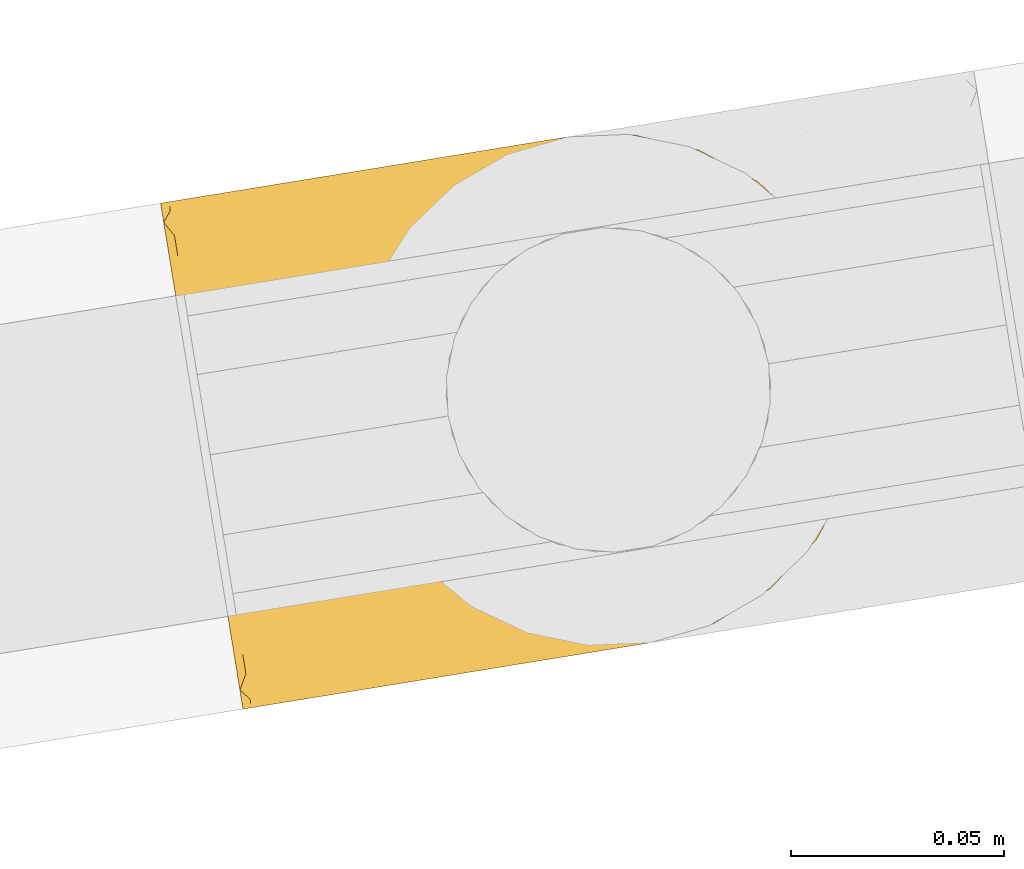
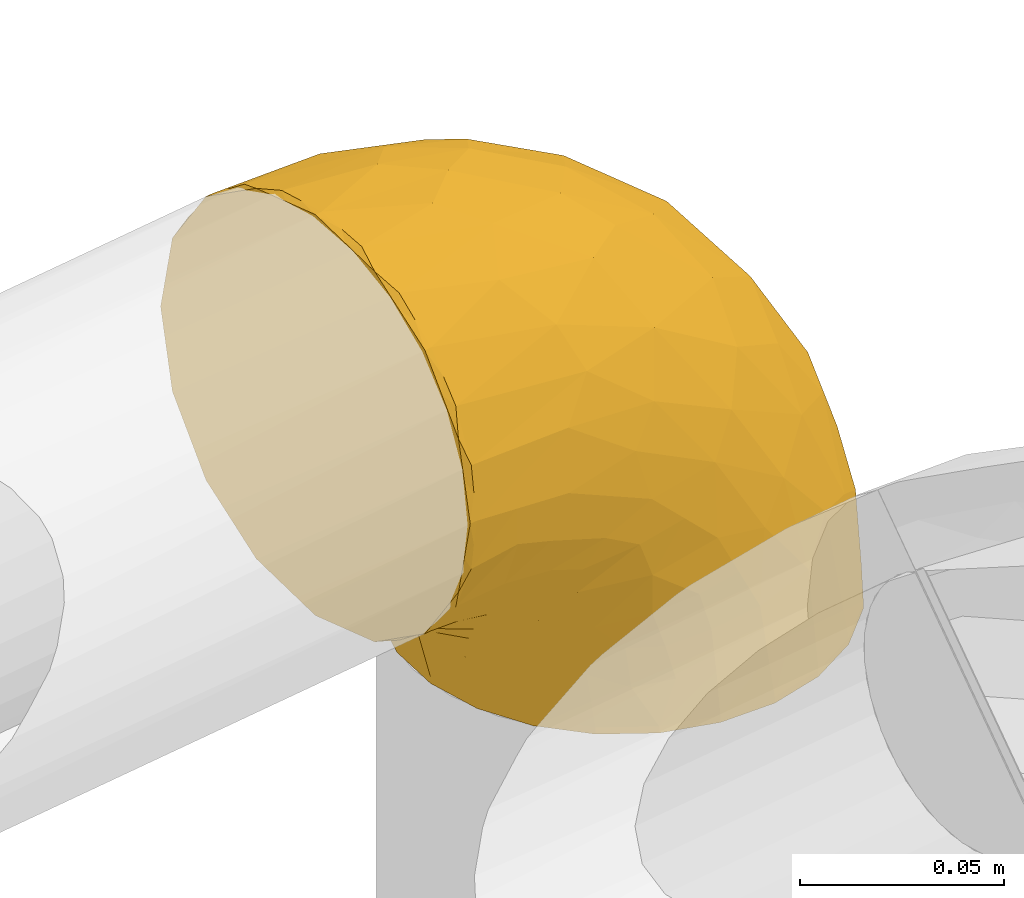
# One storey, part 15 of 56: 1 covering.
"""IFC2X3 building model written with IfcOpenShell, lengths in millimetres."""

from ifc_helpers import new_model, entity, si_unit, converted_unit, derived_unit, direction, frame, origin, origin_with_axes, place, context, subcontext, project, spatial, faceted_brep, material, type_object, element, save


model = new_model("IFC2X3")

# Units and contexts
model_context = context("Model", 3, precision=0.01, world=origin(), true_north=direction((6.12323399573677e-17, 1.0)))
plan_context = context("Plan", 3, precision=1e-05, world=origin_with_axes())
body_context = subcontext(model_context, "Body", "Model", "MODEL_VIEW")
ifc_project = project(units=[converted_unit("PLANEANGLEUNIT", "DEGREE", entity("IfcPositiveLengthMeasure", 0.0174532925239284), si_unit("PLANEANGLEUNIT", "RADIAN"), dimensions=[0, 0, 0, 0, 0, 0, 0]), si_unit("AREAUNIT", "SQUARE_METRE"), si_unit("LENGTHUNIT", "METRE", prefix="MILLI"), si_unit("MASSUNIT", "GRAM", prefix="KILO"), si_unit("POWERUNIT", "WATT"), si_unit("PRESSUREUNIT", "PASCAL", prefix="KILO"), si_unit("FORCEUNIT", "NEWTON", prefix="KILO"), si_unit("ELECTRICVOLTAGEUNIT", "VOLT"), si_unit("ELECTRICCURRENTUNIT", "AMPERE"), si_unit("THERMODYNAMICTEMPERATUREUNIT", "DEGREE_CELSIUS"), si_unit("TIMEUNIT", "SECOND"), si_unit("VOLUMEUNIT", "CUBIC_METRE"), derived_unit("LINEARVELOCITYUNIT", [(si_unit("LENGTHUNIT", "METRE"), 1), (si_unit("TIMEUNIT", "SECOND"), -1)]), derived_unit("VOLUMETRICFLOWRATEUNIT", [(si_unit("VOLUMEUNIT", "CUBIC_METRE"), 1), (si_unit("TIMEUNIT", "SECOND"), -1)]), derived_unit("THERMALTRANSMITTANCEUNIT", [(si_unit("POWERUNIT", "WATT"), 1), (si_unit("THERMODYNAMICTEMPERATUREUNIT", "KELVIN"), -1), (si_unit("AREAUNIT", "SQUARE_METRE"), -1)]), derived_unit("SOUNDPRESSUREUNIT", [(si_unit("PRESSUREUNIT", "PASCAL"), 1)])], contexts=[model_context, plan_context])

# Site, building, storey
site_placement = place(None, frame((-3.09682673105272e-06, 1.93776733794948e-05, 0.0), z_axis=(0.0, 0.0, 1.0), x_axis=(-0.160806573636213, 0.986985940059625, 0.0)))
site = spatial("IfcSite", under=ifc_project, at=site_placement, Name="Default", CompositionType="ELEMENT")
building_placement = place(site_placement, frame((0.0, 0.0, 0.0), z_axis=(0.0, 0.0, 1.0), x_axis=(1.0, -2.77555756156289e-17, 0.0)))
building = spatial("IfcBuilding", under=site, at=building_placement, Name="Bygning (endres i Project Information)", CompositionType="ELEMENT")
storey_placement = place(building_placement, frame((0.0, 0.0, 51360.0000000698), z_axis=(0.0, 0.0, 1.0), x_axis=(1.0, -2.77555756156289e-17, 0.0)))
storey = spatial("IfcBuildingStorey", under=building, at=storey_placement, Name="H01-Nivå D+0,36", CompositionType="ELEMENT", Elevation=51360.0000000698)

# Covering
ifc_material = material(Name="3700.001 Tur")
covering_type = type_object("IfcCoveringType", Name="Pipe Insulation:GLAVA avløpsisol. slange økende 19mm (15,5-25,0)", PredefinedType="INSULATION")
covering_placement = place(storey_placement, frame((1011826.7223707, -395690.961006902, 3503.50000000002), z_axis=(0.0, 0.0, 1.0), x_axis=(1.0, -2.77555756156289e-17, 0.0)))
element("IfcCovering", 1, at=covering_placement, inside=storey, type_object=covering_type, material=ifc_material, Name="Pipe Insulation:GLAVA avløpsisol. slange økende 19mm (15,5-25,0)", ObjectType="Pipe Insulation:GLAVA avløpsisol. slange økende 19mm (15,5-25,0)", PredefinedType="INSULATION", context=body_context, shape_type="Brep", body=[
    faceted_brep([(12.6749081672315, 158.145272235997, 129.22095116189), (19.1835100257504, 158.145272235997, 138.961762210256), (28.9243210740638, 158.145272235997, 145.470364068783), (38.6651321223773, 158.145272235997, 151.978965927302), (50.15520217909, 158.145272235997, 154.264482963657), (61.6452722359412, 158.145272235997, 156.550000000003), (73.1353422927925, 158.145272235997, 154.264482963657), (84.6254123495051, 158.145272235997, 151.978965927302), (94.3662233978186, 158.145272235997, 145.470364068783), (104.107034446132, 158.145272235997, 138.961762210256), (110.615636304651, 158.145272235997, 129.22095116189), (117.124238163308, 158.145272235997, 119.480140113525), (119.409755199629, 158.145272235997, 107.990070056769), (121.695272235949, 158.145272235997, 96.500000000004), (119.409755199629, 158.145272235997, 85.0099299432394), (117.124238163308, 158.145272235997, 73.5198598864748), (110.615636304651, 158.145272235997, 63.779048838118), (104.107034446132, 158.145272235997, 54.0382377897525), (94.3662233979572, 158.145272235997, 47.529635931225), (84.6254123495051, 158.145272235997, 41.0210340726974), (73.1353422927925, 158.145272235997, 38.7355170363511), (61.6452722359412, 158.145272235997, 36.4500000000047), (50.15520217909, 158.145272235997, 38.7355170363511), (38.6651321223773, 158.145272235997, 41.0210340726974), (28.9243210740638, 158.145272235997, 47.529635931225), (19.1835100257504, 158.145272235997, 54.0382377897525), (12.6749081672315, 158.145272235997, 63.779048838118), (6.16630630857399, 158.145272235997, 73.5198598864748), (3.88078927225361, 158.145272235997, 85.0099299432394), (1.59527223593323, 158.145272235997, 96.500000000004), (3.88078927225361, 158.145272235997, 107.990070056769), (6.16630630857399, 158.145272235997, 119.480140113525), (84.4288140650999, 6.64093655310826, 0.0), (77.1873558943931, 3.64142636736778, 0.0), (70.0046048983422, 2.69579925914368, 0.0), (61.6452722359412, 1.59527223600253, 0.0), (53.8742304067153, 2.61834930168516, 0.0), (46.1031885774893, 3.64142636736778, 0.0), (38.8617304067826, 6.64093655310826, 0.0), (31.6202722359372, 9.64044673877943, 0.0), (25.4018911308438, 14.4119783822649, 0.0), (19.1835100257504, 19.1835100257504, 0.0), (14.4119783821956, 25.4018911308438, 0.0), (9.64044673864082, 31.6202722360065, 0.0), (6.64093655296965, 38.8617304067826, 0.0), (3.64142636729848, 46.103188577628, 0.0), (2.69579925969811, 53.2859395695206, 0.0), (1.59527223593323, 61.6452722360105, 0.0), (2.61834930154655, 69.4163140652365, 0.0), (3.64142636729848, 77.1873558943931, 0.0), (6.64093655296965, 84.4288140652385, 0.0), (9.64044673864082, 91.6702722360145, 0.0), (14.4119783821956, 97.8886533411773, 0.0), (19.1835100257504, 104.107034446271, 0.0), (25.4018911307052, 108.878566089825, 0.0), (31.6202722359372, 113.650097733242, 0.0), (38.8617304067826, 116.649607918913, 0.0), (46.1031885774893, 119.649118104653, 0.0), (53.2859395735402, 120.594745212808, 0.0), (61.6452722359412, 121.695272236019, 0.0), (69.4163140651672, 120.672195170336, 0.0), (77.1873558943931, 119.649118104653, 0.0), (84.4288140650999, 116.649607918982, 0.0), (91.6702722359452, 113.650097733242, 0.0), (97.8886533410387, 108.878566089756, 0.0), (104.107034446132, 104.107034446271, 0.0), (108.878566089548, 97.8886533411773, 0.0), (113.650097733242, 91.6702722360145, 0.0), (116.649607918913, 84.4288140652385, 0.0), (119.649118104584, 77.1873558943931, 0.0), (120.594745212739, 70.0046048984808, 0.0), (121.695272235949, 61.6452722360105, 0.0), (120.672195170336, 53.8742304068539, 0.0), (119.649118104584, 46.103188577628, 0.0), (116.649607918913, 38.8617304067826, 0.0), (113.650097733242, 31.6202722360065, 0.0), (108.878566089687, 25.4018911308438, 0.0), (104.107034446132, 19.1835100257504, 0.0), (97.8886533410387, 14.4119783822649, 0.0), (91.6702722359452, 9.64044673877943, 0.0), (46.1031885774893, 3.64142636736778, 2.0), (61.6452722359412, 1.59527223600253, 2.0), (53.2859395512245, 2.69579926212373, 2.0), (31.6202722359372, 9.64044673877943, 2.0), (38.861730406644, 6.64093655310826, 2.0), (25.4018911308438, 14.4119783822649, 2.0), (19.1835100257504, 19.1835100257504, 2.0), (9.64044673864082, 31.6202722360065, 2.0), (14.4119783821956, 25.4018911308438, 2.0), (3.64142636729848, 46.103188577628, 2.0), (6.64093655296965, 38.8617304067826, 2.0), (2.61834930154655, 53.8742304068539, 2.0), (1.59527223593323, 61.6452722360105, 2.0), (2.69579925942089, 70.0046049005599, 2.0), (2.99407838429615, 72.270259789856, 2.0), (3.64142636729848, 77.1873558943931, 2.0), (9.64044673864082, 91.6702722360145, 2.0), (6.64093655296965, 84.4288140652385, 2.0), (14.4119783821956, 97.8886533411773, 2.0), (19.1835100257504, 104.107034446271, 2.0), (31.6202722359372, 113.650097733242, 2.0), (25.4018911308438, 108.878566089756, 2.0), (46.1031885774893, 119.649118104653, 2.0), (38.8617304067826, 116.649607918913, 2.0), (53.8742304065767, 120.672195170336, 2.0), (61.6452722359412, 121.695272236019, 2.0), (77.1873558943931, 119.649118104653, 2.0), (70.0046048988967, 120.594745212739, 2.0), (91.6702722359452, 113.650097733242, 2.0), (84.4288140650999, 116.649607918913, 2.0), (97.8886533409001, 108.878566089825, 2.0), (104.107034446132, 104.107034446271, 2.0), (113.650097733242, 91.6702722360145, 2.0), (108.878566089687, 97.8886533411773, 2.0), (119.649118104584, 77.1873558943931, 2.0), (116.649607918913, 84.4288140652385, 2.0), (120.296466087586, 72.2702597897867, 2.0), (120.672195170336, 69.4163140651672, 2.0), (121.695272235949, 61.6452722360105, 2.0), (119.649118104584, 46.103188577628, 2.0), (120.594745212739, 53.2859395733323, 2.0), (113.650097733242, 31.6202722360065, 2.0), (116.649607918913, 38.8617304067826, 2.0), (108.878566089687, 25.4018911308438, 2.0), (104.107034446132, 19.1835100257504, 2.0), (91.6702722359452, 9.64044673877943, 2.0), (97.8886533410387, 14.4119783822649, 2.0), (77.1873558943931, 3.64142636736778, 2.0), (84.4288140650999, 6.64093655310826, 2.0), (69.4163140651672, 2.61834930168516, 2.0), (61.6452722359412, 116.144788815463, 151.283836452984), (50.874360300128, 129.73909062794, 153.288940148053), (48.3123405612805, 91.3275798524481, 140.64817611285), (61.6452722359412, 6.86143578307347, 42.0004834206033), (50.8743603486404, 4.85633217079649, 28.4061821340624), (40.1140278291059, 19.7108907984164, 65.6641624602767), (29.0681267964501, 24.0008338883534, 61.5566816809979), (40.5629880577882, 10.0256837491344, 38.9846814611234), (26.8652987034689, 15.4130578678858, 29.8044788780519), (6.2538791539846, 54.9607082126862, 62.1059187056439), (9.32891480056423, 39.2407354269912, 43.2804897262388), (15.7793795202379, 41.467532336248, 69.8762938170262), (30.9943885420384, 57.2846017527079, 109.624365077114), (43.033171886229, 35.5526806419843, 93.8575830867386), (46.1252897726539, 63.6269251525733, 123.241838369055), (2.60271791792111, 63.9578923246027, 53.2047729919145), (3.35496170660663, 79.119706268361, 79.0255650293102), (1.59527223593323, 79.6931662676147, 57.5457063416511), (16.4717971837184, 27.4065744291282, 39.4121865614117), (25.2721583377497, 41.2870133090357, 85.9725505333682), (61.6452722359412, 46.8619192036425, 111.283353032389), (61.6452722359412, 78.8702722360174, 135.844226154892), (61.6452722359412, 22.3010460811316, 79.2750000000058), (4.10209138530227, 48.8965381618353, 33.1085428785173), (6.25387908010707, 96.0393519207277, 103.184562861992), (8.17011244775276, 70.00516872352, 88.1401014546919), (1.59527223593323, 72.9817988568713, 44.373906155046), (1.59527223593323, 66.270431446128, 31.202105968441), (51.0085878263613, 12.8520331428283, 57.3185911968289), (16.4717967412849, 118.733084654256, 130.73869698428), (15.7793792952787, 88.2689753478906, 116.677737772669), (29.0681253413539, 96.588587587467, 134.144435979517), (40.5629880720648, 119.160590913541, 148.119588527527), (46.1031885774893, 156.145272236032, 154.503845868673), (38.8617304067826, 156.145272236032, 151.504335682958), (31.6202722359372, 156.145272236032, 148.50482549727), (26.8652981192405, 128.340792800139, 142.732213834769), (25.4018911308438, 156.145272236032, 143.733293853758), (19.1835100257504, 156.145272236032, 138.961762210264), (61.6452722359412, 156.145272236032, 156.550000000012), (53.8742304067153, 156.145272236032, 155.526922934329), (9.32891462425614, 114.864781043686, 118.904535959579), (9.64044673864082, 156.145272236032, 126.525000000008), (6.64093655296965, 156.145272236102, 119.283541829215), (3.64142636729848, 156.145272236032, 112.042083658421), (14.4119783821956, 156.145272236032, 132.743381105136), (1.59527223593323, 100.599565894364, 78.4521059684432), (1.59527223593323, 90.1463660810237, 67.9989061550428), (2.6027179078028, 104.940498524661, 94.1873794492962), (4.1020913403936, 125.036728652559, 109.248733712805), (1.59527223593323, 126.943166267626, 91.8748407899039), (1.59527223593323, 156.145272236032, 96.5000000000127), (1.59527223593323, 143.348656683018, 94.4732152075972), (1.59527223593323, 113.771366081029, 85.1634733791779), (38.4156117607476, 82.0488500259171, 132.277479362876), (2.61834930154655, 156.145272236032, 104.271041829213), (17.5329938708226, 60.5130095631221, 97.6322587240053), (1.59527223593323, 63.6720568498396, 14.7966144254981), (30.453594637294, 131.757116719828, 37.6410747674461), (45.3850170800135, 138.323971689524, 34.0749834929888), (39.6602346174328, 127.650203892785, 28.0667583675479), (3.64833911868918, 78.4697149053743, 16.0282072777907), (3.2176443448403, 80.3495928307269, 29.5164396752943), (35.7453885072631, 116.753076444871, 10.6116860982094), (19.0905134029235, 106.885273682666, 19.0628082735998), (32.0600621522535, 118.78836893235, 21.7229416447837), (7.1678522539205, 91.7197062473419, 27.3599081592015), (6.53844542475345, 96.3841352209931, 39.666857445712), (11.6121890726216, 100.747367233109, 28.2283372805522), (2.87864533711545, 84.4531298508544, 42.1136087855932), (4.10903521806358, 98.2893169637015, 53.275038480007), (19.6892528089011, 147.039813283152, 52.7277267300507), (18.442420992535, 137.096336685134, 51.2360169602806), (12.6384382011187, 139.650076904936, 59.4763453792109), (2.61834930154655, 156.145272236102, 88.7289581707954), (2.99407837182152, 156.145272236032, 85.8750125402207), (3.64142636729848, 156.145272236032, 80.9579163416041), (7.16352338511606, 88.3689042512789, 16.1927958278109), (12.7756283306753, 97.9090140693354, 14.6934830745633), (46.8445885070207, 122.849817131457, 16.4668027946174), (28.5046498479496, 122.976806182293, 31.5509659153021), (18.6122281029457, 122.670864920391, 42.5961267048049), (34.8214494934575, 144.716541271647, 41.1395158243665), (31.6202722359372, 156.145272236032, 44.4951745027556), (38.8617304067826, 156.145272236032, 41.4956643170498), (46.1031885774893, 156.145272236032, 38.4961541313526), (2.81174882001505, 103.39185061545, 65.3961824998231), (6.64320962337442, 128.337375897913, 66.6759720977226), (2.9890941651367, 114.068112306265, 71.9580007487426), (3.24649436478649, 131.067079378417, 78.5096110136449), (11.1155242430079, 128.373817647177, 57.4926777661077), (2.96958213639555, 141.93880334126, 82.4821351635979), (9.64044673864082, 156.145272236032, 66.4750000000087), (8.05093078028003, 142.011205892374, 67.9157141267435), (19.1835100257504, 156.145272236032, 54.0382377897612), (13.3023469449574, 109.171554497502, 37.4968626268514), (21.705384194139, 114.200477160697, 28.5809695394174), (61.6452722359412, 147.532772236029, 34.1422875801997), (44.9928957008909, 146.794078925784, 37.5973450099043), (9.64933126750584, 117.529783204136, 53.6128492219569), (6.18578600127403, 118.7878055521, 62.9326956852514), (61.6452722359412, 156.145272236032, 36.4500000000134), (61.6452722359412, 132.61548465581, 25.5297875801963), (61.6452722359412, 138.920272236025, 31.8345751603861), (50.8046760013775, 128.322043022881, 23.9458716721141), (61.6452722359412, 126.310697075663, 19.2250000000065), (14.4119783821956, 156.145272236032, 60.256618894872), (25.4018911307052, 156.145272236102, 49.2667061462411), (6.64093655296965, 156.145272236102, 73.7164581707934), (53.8742304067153, 156.145272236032, 37.4730770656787), (104.200031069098, 106.885273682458, 19.0628082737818), (87.5451559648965, 116.753076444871, 10.6116860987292), (76.4459559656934, 122.849817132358, 16.4668027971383), (119.642205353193, 78.4697149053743, 16.0282072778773), (121.695272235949, 63.6720568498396, 14.7966144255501), (121.695272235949, 100.599565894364, 78.4521059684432), (120.478798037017, 103.391842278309, 65.3961907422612), (120.301449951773, 114.068114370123, 71.9580001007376), (77.9055273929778, 138.323971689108, 34.0749834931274), (92.8369498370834, 131.757116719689, 37.6410747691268), (83.6303098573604, 127.650203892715, 28.0667583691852), (110.773465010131, 97.4771751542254, 14.4208560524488), (116.46839220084, 87.7504620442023, 16.8876246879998), (116.122692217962, 91.7197062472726, 27.3599081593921), (120.411899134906, 84.4531298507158, 42.1136087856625), (120.252303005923, 79.7125489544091, 30.0434207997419), (121.695272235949, 66.270431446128, 31.202105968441), (101.585160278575, 114.200477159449, 28.5809695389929), (104.678309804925, 122.670868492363, 42.5961209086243), (109.988197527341, 109.171554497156, 37.4968626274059), (94.7858946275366, 122.976806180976, 31.5509659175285), (91.2304823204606, 118.78836893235, 21.7229416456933), (73.06987719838, 132.005123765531, 28.0926723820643), (121.695272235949, 90.1463660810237, 67.9989061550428), (119.181510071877, 98.2893231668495, 53.2750496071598), (78.2976487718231, 146.794078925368, 37.5973450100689), (121.695272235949, 143.348656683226, 94.4732152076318), (119.649118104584, 156.145272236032, 80.9579163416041), (120.296466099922, 156.145272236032, 85.8750125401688), (120.672195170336, 156.145272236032, 88.7289581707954), (121.695272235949, 156.145272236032, 96.5000000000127), (113.641203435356, 117.529796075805, 53.6128377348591), (110.65210593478, 139.650073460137, 59.4763438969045), (104.107034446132, 156.145272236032, 54.0382377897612), (115.239608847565, 142.011208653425, 67.9157049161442), (108.878566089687, 156.145272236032, 60.256618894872), (113.650097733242, 156.145272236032, 66.4750000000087), (120.044048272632, 131.067085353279, 78.5096049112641), (116.647331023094, 128.337376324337, 66.6759627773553), (104.848120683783, 137.096346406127, 51.2360176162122), (112.175015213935, 128.373819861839, 57.4926701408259), (116.752097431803, 96.3841419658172, 39.666861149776), (121.695272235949, 126.943166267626, 91.8748407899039), (120.320962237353, 141.938803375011, 82.4821347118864), (121.695272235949, 113.771366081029, 85.1634733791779), (103.601296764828, 147.039814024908, 52.7277319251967), (88.4690949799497, 144.7165412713, 41.1395158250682), (77.1873558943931, 156.145272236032, 38.4961541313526), (84.4288140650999, 156.145272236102, 41.4956643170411), (91.6702722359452, 156.145272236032, 44.4951745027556), (111.678355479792, 100.747367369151, 28.2283378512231), (121.695272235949, 79.6931662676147, 57.5457063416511), (69.4163140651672, 156.145272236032, 37.4730770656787), (117.104756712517, 118.78779747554, 62.9326857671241), (116.649607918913, 156.145272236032, 73.7164581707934), (97.8886533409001, 156.145272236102, 49.2667061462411), (121.695272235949, 72.9817988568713, 44.373906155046), (120.687826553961, 63.9578923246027, 53.2047729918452), (94.2224191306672, 96.5885875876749, 134.144435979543), (98.0183867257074, 72.1727164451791, 116.858254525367), (107.511165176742, 88.2689753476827, 116.677737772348), (82.7275563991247, 119.160590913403, 148.119588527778), (91.6702722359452, 156.145272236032, 148.50482549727), (84.4288140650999, 156.145272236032, 151.504335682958), (77.1873558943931, 156.145272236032, 154.503845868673), (92.2961553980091, 48.5209013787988, 100.860664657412), (80.2573722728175, 64.287682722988, 122.592586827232), (77.1652542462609, 34.9034295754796, 94.5183416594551), (120.68782656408, 104.940498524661, 94.1873794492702), (119.935582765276, 79.1197062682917, 79.0255650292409), (119.18845308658, 48.896538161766, 33.108542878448), (72.4161841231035, 4.85633217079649, 28.4061821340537), (82.7275564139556, 10.0256837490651, 38.9846814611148), (96.4252457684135, 15.4130578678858, 29.8044788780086), (106.818747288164, 27.4065744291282, 39.4121865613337), (94.2224176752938, 24.0008338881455, 61.5566816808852), (74.9782050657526, 17.4970954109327, 66.8176902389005), (113.961629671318, 39.2407354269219, 43.2804897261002), (107.511164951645, 41.4675323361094, 69.8762938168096), (113.650097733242, 156.145272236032, 126.525000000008), (106.818747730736, 118.733084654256, 130.738696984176), (113.961629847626, 114.864781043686, 118.904535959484), (119.188453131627, 125.036728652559, 109.248733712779), (117.036665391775, 96.0393519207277, 103.184562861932), (120.672195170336, 156.145272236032, 104.271041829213), (119.649118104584, 156.145272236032, 112.042083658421), (117.036665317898, 54.9607082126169, 62.1059187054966), (115.12043202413, 70.0051687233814, 88.1401014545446), (72.4161841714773, 129.739090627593, 153.288940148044), (104.107034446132, 156.145272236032, 138.961762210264), (96.425246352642, 128.340792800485, 142.732213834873), (72.2819553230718, 100.826682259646, 145.293239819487), (97.8886533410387, 156.145272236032, 143.733293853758), (108.878566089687, 156.145272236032, 132.743381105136), (83.1765175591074, 92.4811088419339, 138.43438061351), (84.8749309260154, 25.8677889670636, 76.0964168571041), (105.757550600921, 60.5130095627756, 97.6322587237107), (116.649607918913, 156.145272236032, 119.283541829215), (69.4163140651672, 156.145272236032, 155.526922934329)], [[[0, 1, 2, 3, 4, 5, 6, 7, 8, 9, 10, 11, 12, 13, 14, 15, 16, 17, 18, 19, 20, 21, 22, 23, 24, 25, 26, 27, 28, 29, 30, 31]], [[32, 33, 34, 35, 36, 37, 38, 39, 40, 41, 42, 43, 44, 45, 46, 47, 48, 49, 50, 51, 52, 53, 54, 55, 56, 57, 58, 59, 60, 61, 62, 63, 64, 65, 66, 67, 68, 69, 70, 71, 72, 73, 74, 75, 76, 77, 78, 79]], [[80, 37, 36, 35, 81, 82]], [[83, 39, 38, 37, 80, 84]], [[40, 39, 83, 85, 86, 41]], [[87, 43, 42, 41, 86, 88]], [[89, 45, 44, 43, 87, 90]], [[46, 45, 89, 91, 92, 47]], [[49, 48, 47, 92, 93, 94, 95]], [[96, 51, 50, 49, 95, 97]], [[52, 51, 96, 98, 99, 53]], [[100, 55, 54, 53, 99, 101]], [[102, 57, 56, 55, 100, 103]], [[58, 57, 102, 104, 105, 59]], [[106, 61, 60, 59, 105, 107]], [[108, 63, 62, 61, 106, 109]], [[64, 63, 108, 110, 111, 65]], [[112, 67, 66, 65, 111, 113]], [[114, 69, 68, 67, 112, 115]], [[70, 69, 114, 116, 117, 118, 71]], [[119, 73, 72, 71, 118, 120]], [[121, 75, 74, 73, 119, 122]], [[76, 75, 121, 123, 124, 77]], [[125, 79, 78, 77, 124, 126]], [[127, 33, 32, 79, 125, 128]], [[34, 33, 127, 129, 81, 35]], [[130, 131, 132]], [[81, 133, 134]], [[135, 136, 137]], [[137, 136, 138]], [[137, 83, 84, 80]], [[139, 140, 141]], [[142, 143, 144]], [[145, 146, 147]], [[148, 86, 138]], [[138, 86, 85, 83]], [[143, 142, 149]], [[150, 151, 144]], [[143, 152, 150]], [[153, 92, 91, 89]], [[154, 146, 155]], [[87, 148, 140]], [[145, 147, 156, 157]], [[80, 134, 137]], [[158, 135, 137]], [[155, 146, 139]], [[148, 87, 88, 86]], [[159, 160, 161]], [[162, 163, 164, 165]], [[166, 165, 167, 168]], [[166, 162, 165]], [[131, 169, 170, 163]], [[159, 171, 160]], [[171, 172, 173, 174]], [[153, 139, 145]], [[159, 168, 175, 172]], [[144, 143, 150]], [[146, 176, 177, 147]], [[178, 179, 180]], [[179, 181, 182, 180]], [[178, 180, 183, 176]], [[178, 146, 154]], [[136, 149, 141]], [[131, 163, 162]], [[166, 159, 161]], [[184, 144, 132]], [[153, 140, 139]], [[179, 171, 174]], [[132, 144, 151]], [[134, 158, 137]], [[161, 160, 142]], [[146, 178, 176]], [[179, 178, 154]], [[179, 154, 171]], [[179, 174, 185, 181]], [[154, 155, 160]], [[172, 171, 159]], [[154, 160, 171]], [[160, 186, 142]], [[153, 157, 187, 92]], [[146, 145, 139]], [[153, 145, 157]], [[140, 89, 90, 87]], [[140, 153, 89]], [[141, 140, 148]], [[136, 141, 148]], [[141, 186, 155]], [[142, 144, 184]], [[186, 141, 149]], [[137, 138, 83]], [[148, 138, 136]], [[159, 166, 168]], [[162, 166, 161]], [[141, 155, 139]], [[160, 155, 186]], [[130, 132, 151]], [[184, 162, 161]], [[162, 184, 132]], [[142, 184, 161]], [[134, 80, 82, 81]], [[158, 134, 133]], [[133, 152, 158]], [[143, 158, 152]], [[158, 143, 135]], [[143, 136, 135]], [[132, 131, 162]], [[169, 131, 130]], [[143, 149, 136]], [[186, 149, 142]], [[188, 189, 190]], [[187, 157, 191]], [[157, 156, 192]], [[95, 187, 191]], [[193, 194, 195]], [[196, 197, 198]], [[199, 200, 197]], [[201, 202, 203]], [[182, 181, 204, 205, 206]], [[207, 208, 96]], [[209, 105, 104, 102]], [[188, 190, 210]], [[188, 210, 211]], [[187, 95, 94, 93, 92]], [[193, 102, 103, 100]], [[212, 213, 214, 215]], [[200, 177, 216]], [[202, 201, 212]], [[217, 218, 219]], [[183, 219, 218]], [[217, 203, 220]], [[221, 222, 223]], [[191, 96, 97, 95]], [[195, 210, 190]], [[224, 201, 203]], [[225, 211, 226]], [[227, 189, 228]], [[202, 188, 211]], [[195, 190, 209]], [[221, 182, 206]], [[223, 203, 217]], [[189, 188, 212]], [[200, 229, 225]], [[194, 100, 101, 99]], [[216, 218, 230]], [[208, 99, 98, 96]], [[199, 197, 196]], [[200, 147, 177]], [[228, 231, 227]], [[202, 212, 188]], [[228, 212, 215]], [[232, 189, 233]], [[209, 234, 235]], [[234, 209, 190]], [[105, 209, 235]], [[193, 209, 102]], [[232, 234, 189]], [[226, 210, 195]], [[211, 225, 229]], [[211, 210, 226]], [[211, 229, 220]], [[195, 194, 226]], [[198, 226, 194]], [[218, 216, 176]], [[216, 177, 176]], [[229, 200, 216]], [[180, 219, 183]], [[217, 220, 230]], [[218, 176, 183]], [[221, 219, 180]], [[223, 217, 219]], [[221, 223, 219]], [[223, 222, 236, 224]], [[224, 203, 223]], [[220, 203, 202]], [[211, 220, 202]], [[217, 230, 218]], [[220, 229, 230]], [[216, 230, 229]], [[201, 224, 237, 213]], [[212, 201, 213]], [[182, 221, 180]], [[221, 206, 238, 222]], [[189, 227, 233]], [[199, 196, 192]], [[191, 192, 207]], [[200, 199, 147]], [[147, 199, 156]], [[196, 207, 192]], [[200, 225, 197]], [[225, 226, 198]], [[157, 192, 191]], [[156, 199, 192]], [[207, 196, 208]], [[191, 207, 96]], [[198, 208, 196]], [[194, 99, 208]], [[225, 198, 197]], [[208, 198, 194]], [[194, 193, 100]], [[209, 193, 195]], [[189, 234, 190]], [[235, 234, 232]], [[228, 215, 239, 231]], [[189, 212, 228]], [[240, 111, 110, 108]], [[241, 108, 109, 106]], [[105, 235, 242]], [[243, 244, 114]], [[245, 246, 247]], [[248, 249, 250]], [[248, 233, 227]], [[251, 252, 112]], [[116, 114, 244, 118, 117]], [[253, 254, 255]], [[244, 243, 256]], [[253, 252, 251]], [[257, 258, 259]], [[243, 114, 115, 112]], [[258, 260, 249]], [[261, 250, 260]], [[262, 242, 235]], [[246, 263, 264]], [[231, 265, 227]], [[240, 108, 241]], [[266, 267, 268, 269, 270]], [[264, 259, 271]], [[272, 273, 274]], [[260, 257, 261]], [[274, 273, 275, 276]], [[277, 247, 278]], [[279, 280, 258]], [[254, 281, 264]], [[266, 282, 283]], [[283, 282, 277]], [[282, 284, 277]], [[272, 285, 273]], [[286, 279, 249]], [[286, 287, 288, 289]], [[259, 281, 290]], [[272, 280, 279]], [[263, 246, 245]], [[264, 291, 254]], [[286, 289, 285]], [[248, 286, 249]], [[260, 250, 249]], [[265, 231, 292, 287]], [[242, 250, 261]], [[262, 248, 250]], [[241, 242, 261]], [[242, 106, 107, 105]], [[262, 235, 232, 233]], [[248, 262, 233]], [[260, 258, 257]], [[279, 258, 249]], [[259, 258, 271]], [[290, 257, 259]], [[240, 261, 257]], [[264, 271, 246]], [[263, 291, 264]], [[280, 278, 293]], [[293, 246, 271]], [[278, 274, 277]], [[277, 284, 247]], [[284, 245, 247]], [[283, 276, 294, 267]], [[274, 278, 272]], [[283, 274, 276]], [[280, 272, 278]], [[272, 279, 285]], [[293, 278, 247]], [[258, 280, 271]], [[246, 293, 247]], [[271, 280, 293]], [[286, 285, 279]], [[285, 289, 295, 273]], [[283, 277, 274]], [[266, 283, 267]], [[265, 287, 286]], [[253, 255, 252]], [[254, 291, 296]], [[255, 254, 296]], [[243, 255, 256]], [[254, 253, 281]], [[256, 255, 296]], [[255, 243, 252]], [[290, 281, 253]], [[259, 264, 281]], [[243, 112, 252]], [[251, 112, 113, 111]], [[111, 240, 251]], [[290, 251, 240]], [[251, 290, 253]], [[290, 240, 257]], [[242, 241, 106]], [[240, 241, 261]], [[242, 262, 250]], [[286, 248, 265]], [[227, 265, 248]], [[297, 256, 296, 291]], [[298, 299, 300]], [[301, 302, 303, 304]], [[305, 306, 307]], [[308, 309, 245]], [[297, 310, 256]], [[311, 127, 312]], [[313, 314, 315]], [[311, 81, 129, 127]], [[316, 307, 152]], [[314, 317, 318]], [[313, 312, 125]], [[312, 127, 128, 125]], [[313, 125, 126, 124]], [[319, 320, 321]], [[314, 124, 123, 121]], [[317, 121, 122, 119]], [[306, 151, 150]], [[309, 291, 263, 245]], [[322, 321, 323]], [[314, 318, 315]], [[322, 323, 308]], [[322, 270, 324, 325]], [[326, 309, 327]], [[119, 310, 317]], [[304, 328, 301]], [[306, 305, 299]], [[320, 329, 330]], [[328, 331, 301]], [[330, 329, 332, 302]], [[320, 319, 333, 329]], [[331, 334, 301]], [[298, 301, 334]], [[307, 306, 150]], [[169, 130, 328]], [[297, 309, 326]], [[327, 309, 323]], [[330, 301, 298]], [[300, 323, 321]], [[310, 118, 244, 256]], [[150, 152, 307]], [[308, 245, 284, 282]], [[335, 307, 316]], [[133, 311, 316]], [[315, 318, 305]], [[309, 297, 291]], [[310, 297, 326]], [[310, 326, 317]], [[310, 119, 120, 118]], [[326, 327, 318]], [[121, 317, 314]], [[326, 318, 317]], [[318, 336, 305]], [[322, 282, 266, 270]], [[309, 308, 323]], [[322, 308, 282]], [[321, 325, 337, 319]], [[321, 322, 325]], [[300, 321, 320]], [[298, 300, 320]], [[300, 336, 327]], [[305, 307, 335]], [[336, 300, 299]], [[301, 330, 302]], [[320, 330, 298]], [[314, 313, 124]], [[312, 313, 315]], [[300, 327, 323]], [[318, 327, 336]], [[133, 316, 152]], [[335, 312, 315]], [[312, 335, 316]], [[305, 335, 315]], [[328, 304, 338, 169]], [[331, 328, 130]], [[130, 151, 331]], [[306, 331, 151]], [[331, 306, 334]], [[306, 298, 334]], [[316, 311, 312]], [[81, 311, 133]], [[306, 299, 298]], [[336, 299, 305]], [[170, 169, 5]], [[185, 174, 30]], [[185, 29, 181]], [[3, 2, 165]], [[3, 165, 164, 163]], [[3, 163, 4]], [[1, 167, 2]], [[5, 4, 170]], [[167, 1, 168]], [[4, 163, 170]], [[29, 185, 30]], [[31, 174, 173, 172]], [[175, 0, 172]], [[175, 1, 0]], [[31, 172, 0]], [[1, 175, 168]], [[167, 165, 2]], [[31, 30, 174]], [[204, 181, 29]], [[239, 215, 22]], [[239, 21, 231]], [[27, 26, 222]], [[27, 222, 238, 206]], [[27, 206, 28]], [[25, 236, 26]], [[29, 28, 204]], [[236, 25, 224]], [[28, 206, 205, 204]], [[21, 239, 22]], [[23, 215, 214, 213]], [[237, 24, 213]], [[237, 25, 24]], [[23, 213, 24]], [[25, 237, 224]], [[236, 222, 26]], [[23, 22, 215]], [[292, 231, 21]], [[14, 269, 268, 267]], [[269, 13, 270]], [[19, 18, 289]], [[19, 289, 288, 287]], [[19, 287, 20]], [[17, 295, 18]], [[21, 20, 292]], [[295, 17, 273]], [[20, 287, 292]], [[13, 269, 14]], [[15, 267, 294, 276]], [[275, 16, 276]], [[275, 17, 16]], [[15, 276, 16]], [[17, 275, 273]], [[295, 289, 18]], [[15, 14, 267]], [[324, 270, 13]], [[338, 304, 6]], [[338, 5, 169]], [[11, 10, 319]], [[11, 319, 337, 325]], [[11, 325, 12]], [[9, 333, 10]], [[13, 12, 324]], [[333, 9, 329]], [[12, 325, 324]], [[5, 338, 6]], [[7, 304, 303, 302]], [[332, 8, 302]], [[332, 9, 8]], [[7, 302, 8]], [[9, 332, 329]], [[333, 319, 10]], [[7, 6, 304]]]),
])

save(model, "model.ifc")
